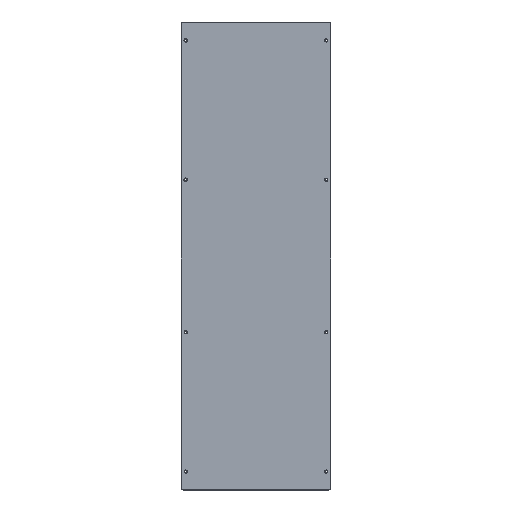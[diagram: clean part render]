
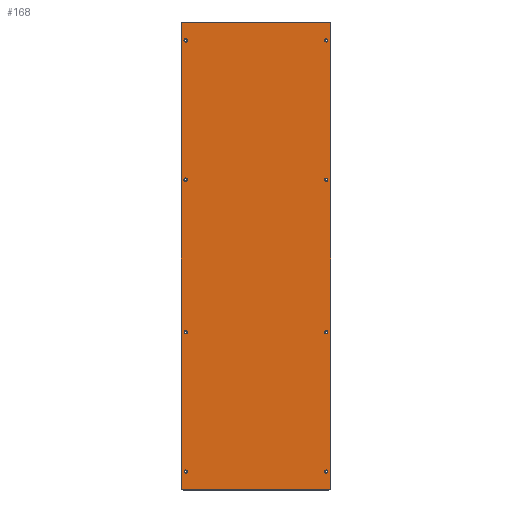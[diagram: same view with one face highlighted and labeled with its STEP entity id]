
A CAD part, top view. The second image highlights one B-rep face of the part: STEP entity #168.
In plain terms, the highlighted planar face has unit normal (0, 0, 1).
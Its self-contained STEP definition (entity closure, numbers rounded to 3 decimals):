
#168 = ADVANCED_FACE( '', ( #430, #431, #432, #433, #434, #435, #436, #437, #438 ), #439, .F. );
#430 = FACE_BOUND( '', #823, .T. );
#431 = FACE_BOUND( '', #824, .T. );
#432 = FACE_BOUND( '', #825, .T. );
#433 = FACE_BOUND( '', #826, .T. );
#434 = FACE_BOUND( '', #827, .T. );
#435 = FACE_BOUND( '', #828, .T. );
#436 = FACE_BOUND( '', #829, .T. );
#437 = FACE_BOUND( '', #830, .T. );
#438 = FACE_OUTER_BOUND( '', #831, .T. );
#439 = PLANE( '', #832 );
#823 = EDGE_LOOP( '', ( #1284 ) );
#824 = EDGE_LOOP( '', ( #1285 ) );
#825 = EDGE_LOOP( '', ( #1286 ) );
#826 = EDGE_LOOP( '', ( #1287 ) );
#827 = EDGE_LOOP( '', ( #1288 ) );
#828 = EDGE_LOOP( '', ( #1289 ) );
#829 = EDGE_LOOP( '', ( #1290 ) );
#830 = EDGE_LOOP( '', ( #1291 ) );
#831 = EDGE_LOOP( '', ( #1292, #1293, #1294, #1295, #1296, #1297, #1298, #1299, #1300, #1301, #1302, #1303 ) );
#832 = AXIS2_PLACEMENT_3D( '', #1304, #1305, #1306 );
#1284 = ORIENTED_EDGE( '', *, *, #2226, .F. );
#1285 = ORIENTED_EDGE( '', *, *, #2255, .F. );
#1286 = ORIENTED_EDGE( '', *, *, #2256, .F. );
#1287 = ORIENTED_EDGE( '', *, *, #2257, .F. );
#1288 = ORIENTED_EDGE( '', *, *, #2258, .F. );
#1289 = ORIENTED_EDGE( '', *, *, #2259, .F. );
#1290 = ORIENTED_EDGE( '', *, *, #2260, .F. );
#1291 = ORIENTED_EDGE( '', *, *, #2261, .F. );
#1292 = ORIENTED_EDGE( '', *, *, #2262, .F. );
#1293 = ORIENTED_EDGE( '', *, *, #2235, .F. );
#1294 = ORIENTED_EDGE( '', *, *, #2263, .T. );
#1295 = ORIENTED_EDGE( '', *, *, #2250, .T. );
#1296 = ORIENTED_EDGE( '', *, *, #2264, .F. );
#1297 = ORIENTED_EDGE( '', *, *, #2229, .T. );
#1298 = ORIENTED_EDGE( '', *, *, #2265, .T. );
#1299 = ORIENTED_EDGE( '', *, *, #2266, .T. );
#1300 = ORIENTED_EDGE( '', *, *, #2267, .F. );
#1301 = ORIENTED_EDGE( '', *, *, #2268, .F. );
#1302 = ORIENTED_EDGE( '', *, *, #2269, .T. );
#1303 = ORIENTED_EDGE( '', *, *, #2270, .F. );
#1304 = CARTESIAN_POINT( '', ( -281., 1761.5, 18. ) );
#1305 = DIRECTION( '', ( 0., 0., -1. ) );
#1306 = DIRECTION( '', ( -1., 0., 0. ) );
#2226 = EDGE_CURVE( '', #2657, #2657, #2658, .F. );
#2229 = EDGE_CURVE( '', #2663, #2661, #2664, .T. );
#2235 = EDGE_CURVE( '', #2672, #2674, #2675, .T. );
#2250 = EDGE_CURVE( '', #2692, #2700, #2702, .T. );
#2255 = EDGE_CURVE( '', #2709, #2709, #2710, .F. );
#2256 = EDGE_CURVE( '', #2711, #2711, #2712, .F. );
#2257 = EDGE_CURVE( '', #2713, #2713, #2714, .F. );
#2258 = EDGE_CURVE( '', #2715, #2715, #2716, .F. );
#2259 = EDGE_CURVE( '', #2717, #2717, #2718, .F. );
#2260 = EDGE_CURVE( '', #2719, #2719, #2720, .F. );
#2261 = EDGE_CURVE( '', #2721, #2721, #2722, .F. );
#2262 = EDGE_CURVE( '', #2674, #2723, #2724, .T. );
#2263 = EDGE_CURVE( '', #2672, #2692, #2725, .T. );
#2264 = EDGE_CURVE( '', #2663, #2700, #2726, .T. );
#2265 = EDGE_CURVE( '', #2661, #2727, #2728, .T. );
#2266 = EDGE_CURVE( '', #2727, #2729, #2730, .T. );
#2267 = EDGE_CURVE( '', #2731, #2729, #2732, .T. );
#2268 = EDGE_CURVE( '', #2733, #2731, #2734, .T. );
#2269 = EDGE_CURVE( '', #2733, #2735, #2736, .T. );
#2270 = EDGE_CURVE( '', #2723, #2735, #2737, .T. );
#2657 = VERTEX_POINT( '', #3291 );
#2658 = CIRCLE( '', #3292, 6.138 );
#2661 = VERTEX_POINT( '', #3295 );
#2663 = VERTEX_POINT( '', #3298 );
#2664 = LINE( '', #3299, #3300 );
#2672 = VERTEX_POINT( '', #3311 );
#2674 = VERTEX_POINT( '', #3314 );
#2675 = LINE( '', #3315, #3316 );
#2692 = VERTEX_POINT( '', #3338 );
#2700 = VERTEX_POINT( '', #3350 );
#2702 = LINE( '', #3353, #3354 );
#2709 = VERTEX_POINT( '', #3362 );
#2710 = CIRCLE( '', #3363, 6.138 );
#2711 = VERTEX_POINT( '', #3364 );
#2712 = CIRCLE( '', #3365, 6.138 );
#2713 = VERTEX_POINT( '', #3366 );
#2714 = CIRCLE( '', #3367, 6.492 );
#2715 = VERTEX_POINT( '', #3368 );
#2716 = CIRCLE( '', #3369, 6.138 );
#2717 = VERTEX_POINT( '', #3370 );
#2718 = CIRCLE( '', #3371, 6.138 );
#2719 = VERTEX_POINT( '', #3372 );
#2720 = CIRCLE( '', #3373, 6.138 );
#2721 = VERTEX_POINT( '', #3374 );
#2722 = CIRCLE( '', #3375, 6.492 );
#2723 = VERTEX_POINT( '', #3376 );
#2724 = LINE( '', #3377, #3378 );
#2725 = LINE( '', #3379, #3380 );
#2726 = LINE( '', #3381, #3382 );
#2727 = VERTEX_POINT( '', #3383 );
#2728 = LINE( '', #3384, #3385 );
#2729 = VERTEX_POINT( '', #3386 );
#2730 = LINE( '', #3387, #3388 );
#2731 = VERTEX_POINT( '', #3389 );
#2732 = LINE( '', #3390, #3391 );
#2733 = VERTEX_POINT( '', #3392 );
#2734 = LINE( '', #3393, #3394 );
#2735 = VERTEX_POINT( '', #3395 );
#2736 = LINE( '', #3396, #3397 );
#2737 = LINE( '', #3398, #3399 );
#3291 = CARTESIAN_POINT( '', ( 258.862, 1169.5, 18. ) );
#3292 = AXIS2_PLACEMENT_3D( '', #4210, #4211, #4212 );
#3295 = CARTESIAN_POINT( '', ( -281., 2.5, 18. ) );
#3298 = CARTESIAN_POINT( '', ( -281., 1761.5, 18. ) );
#3299 = CARTESIAN_POINT( '', ( -281., 1761.5, 18. ) );
#3300 = VECTOR( '', #4214, 1000. );
#3311 = CARTESIAN_POINT( '', ( 278.5, 1764., 18. ) );
#3314 = CARTESIAN_POINT( '', ( 278.5, 1761.5, 18. ) );
#3315 = CARTESIAN_POINT( '', ( 278.5, 1764., 18. ) );
#3316 = VECTOR( '', #4219, 1000. );
#3338 = CARTESIAN_POINT( '', ( -278.5, 1764., 18. ) );
#3350 = CARTESIAN_POINT( '', ( -278.5, 1761.5, 18. ) );
#3353 = CARTESIAN_POINT( '', ( -278.5, 1764., 18. ) );
#3354 = VECTOR( '', #4236, 1000. );
#3362 = CARTESIAN_POINT( '', ( 258.862, 594.5, 18. ) );
#3363 = AXIS2_PLACEMENT_3D( '', #4241, #4242, #4243 );
#3364 = CARTESIAN_POINT( '', ( -271.138, 594.5, 18. ) );
#3365 = AXIS2_PLACEMENT_3D( '', #4244, #4245, #4246 );
#3366 = CARTESIAN_POINT( '', ( -271.492, 1169.5, 18. ) );
#3367 = AXIS2_PLACEMENT_3D( '', #4247, #4248, #4249 );
#3368 = CARTESIAN_POINT( '', ( 258.862, 1694.5, 18. ) );
#3369 = AXIS2_PLACEMENT_3D( '', #4250, #4251, #4252 );
#3370 = CARTESIAN_POINT( '', ( 258.862, 69.5, 18. ) );
#3371 = AXIS2_PLACEMENT_3D( '', #4253, #4254, #4255 );
#3372 = CARTESIAN_POINT( '', ( -271.138, 69.5, 18. ) );
#3373 = AXIS2_PLACEMENT_3D( '', #4256, #4257, #4258 );
#3374 = CARTESIAN_POINT( '', ( -271.492, 1694.5, 18. ) );
#3375 = AXIS2_PLACEMENT_3D( '', #4259, #4260, #4261 );
#3376 = CARTESIAN_POINT( '', ( 281., 1761.5, 18. ) );
#3377 = CARTESIAN_POINT( '', ( -281., 1761.5, 18. ) );
#3378 = VECTOR( '', #4262, 1000. );
#3379 = CARTESIAN_POINT( '', ( 278.5, 1764., 18. ) );
#3380 = VECTOR( '', #4263, 1000. );
#3381 = CARTESIAN_POINT( '', ( -281., 1761.5, 18. ) );
#3382 = VECTOR( '', #4264, 1000. );
#3383 = CARTESIAN_POINT( '', ( -278.5, 2.5, 18. ) );
#3384 = CARTESIAN_POINT( '', ( -281., 2.5, 18. ) );
#3385 = VECTOR( '', #4265, 1000. );
#3386 = CARTESIAN_POINT( '', ( -278.5, 0., 18. ) );
#3387 = CARTESIAN_POINT( '', ( -278.5, 1764., 18. ) );
#3388 = VECTOR( '', #4266, 1000. );
#3389 = CARTESIAN_POINT( '', ( 278.5, 0., 18. ) );
#3390 = CARTESIAN_POINT( '', ( 278.5, 0., 18. ) );
#3391 = VECTOR( '', #4267, 1000. );
#3392 = CARTESIAN_POINT( '', ( 278.5, 2.5, 18. ) );
#3393 = CARTESIAN_POINT( '', ( 278.5, 1764., 18. ) );
#3394 = VECTOR( '', #4268, 1000. );
#3395 = CARTESIAN_POINT( '', ( 281., 2.5, 18. ) );
#3396 = CARTESIAN_POINT( '', ( -281., 2.5, 18. ) );
#3397 = VECTOR( '', #4269, 1000. );
#3398 = CARTESIAN_POINT( '', ( 281., 1761.5, 18. ) );
#3399 = VECTOR( '', #4270, 1000. );
#4210 = CARTESIAN_POINT( '', ( 265., 1169.5, 18. ) );
#4211 = DIRECTION( '', ( 0., 0., -1. ) );
#4212 = DIRECTION( '', ( -1., 0., 0. ) );
#4214 = DIRECTION( '', ( 0., -1., 0. ) );
#4219 = DIRECTION( '', ( 0., -1., 0. ) );
#4236 = DIRECTION( '', ( 0., -1., 0. ) );
#4241 = CARTESIAN_POINT( '', ( 265., 594.5, 18. ) );
#4242 = DIRECTION( '', ( 0., 0., -1. ) );
#4243 = DIRECTION( '', ( -1., 0., 0. ) );
#4244 = CARTESIAN_POINT( '', ( -265., 594.5, 18. ) );
#4245 = DIRECTION( '', ( 0., 0., -1. ) );
#4246 = DIRECTION( '', ( -1., 0., 0. ) );
#4247 = CARTESIAN_POINT( '', ( -265., 1169.5, 18. ) );
#4248 = DIRECTION( '', ( 0., 0., -1. ) );
#4249 = DIRECTION( '', ( -1., 0., 0. ) );
#4250 = CARTESIAN_POINT( '', ( 265., 1694.5, 18. ) );
#4251 = DIRECTION( '', ( 0., 0., -1. ) );
#4252 = DIRECTION( '', ( -1., 0., 0. ) );
#4253 = CARTESIAN_POINT( '', ( 265., 69.5, 18. ) );
#4254 = DIRECTION( '', ( 0., 0., -1. ) );
#4255 = DIRECTION( '', ( -1., 0., 0. ) );
#4256 = CARTESIAN_POINT( '', ( -265., 69.5, 18. ) );
#4257 = DIRECTION( '', ( 0., 0., -1. ) );
#4258 = DIRECTION( '', ( -1., 0., 0. ) );
#4259 = CARTESIAN_POINT( '', ( -265., 1694.5, 18. ) );
#4260 = DIRECTION( '', ( 0., 0., -1. ) );
#4261 = DIRECTION( '', ( -1., 0., 0. ) );
#4262 = DIRECTION( '', ( 1., 0., 0. ) );
#4263 = DIRECTION( '', ( -1., 0., 0. ) );
#4264 = DIRECTION( '', ( 1., 0., 0. ) );
#4265 = DIRECTION( '', ( 1., 0., 0. ) );
#4266 = DIRECTION( '', ( 0., -1., 0. ) );
#4267 = DIRECTION( '', ( -1., 0., 0. ) );
#4268 = DIRECTION( '', ( 0., -1., 0. ) );
#4269 = DIRECTION( '', ( 1., 0., 0. ) );
#4270 = DIRECTION( '', ( 0., -1., 0. ) );
